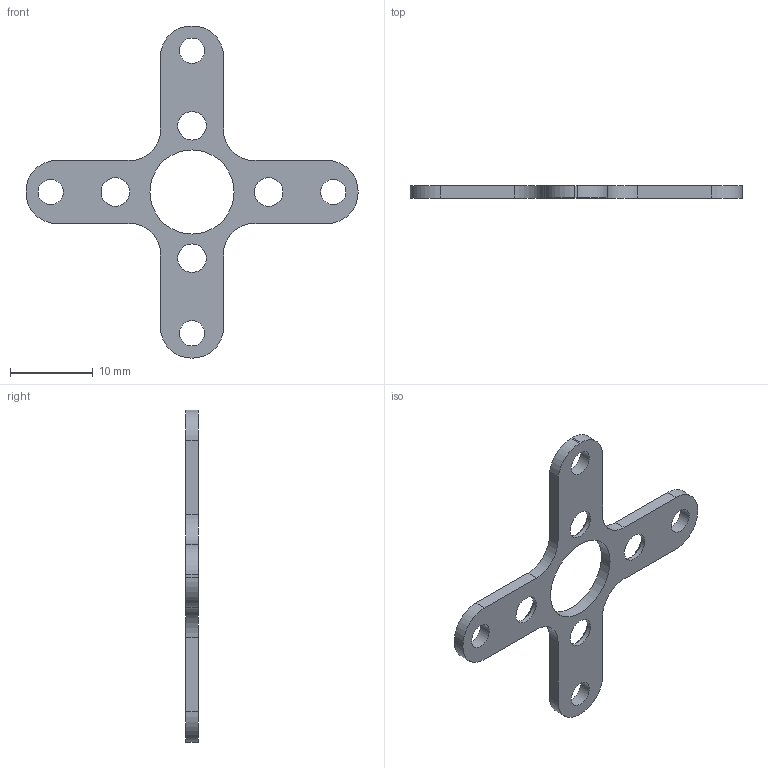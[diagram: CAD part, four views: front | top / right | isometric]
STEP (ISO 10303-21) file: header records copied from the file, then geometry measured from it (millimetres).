
FILE_DESCRIPTION(/* description */ ('STEP AP214','CAx-IF Rec.Pracs.---User Defined Attributes---1.5---2016-08-15'),/* implementation_level */ '2;1');
FILE_NAME(/* name */ '6adec08098f5f667e2129a19',/* time_stamp */ '2026-10-26T02:52:48Z',/* author */ (''),/* organization */ (''),/* preprocessor_version */ 'ST-DEVELOPER v20',/* originating_system */ 'ONSHAPE BY PTC INC, 1.222',/* authorisation */ ' ');
FILE_SCHEMA (('AUTOMOTIVE_DESIGN {1 0 10303 214 3 1 1}'));
Length unit declared in the file: metre
Products named in the file (1): BLDC_A2212_13T_1000KV_MountPlate-1
Bounding box: 40.13 x 1.47 x 40.13 mm (x, y, z)
Volume: 552.3 mm3; surface area: 1143 mm2
Topology: 1 solids, 1 shells, 39 faces, 111 edges, 74 vertices
Faces by surface type: cylinder 21, plane 14, cone 4
Full cylindrical faces by diameter (mm): 3.048 x4, 3.454 x4, 10.16 x1
Entity records: 1256 total; most frequent: DIRECTION 220, CARTESIAN_POINT 204, ORIENTED_EDGE 188, EDGE_CURVE 94, AXIS2_PLACEMENT_3D 86, VERTEX_POINT 70, EDGE_LOOP 70, FACE_BOUND 70
